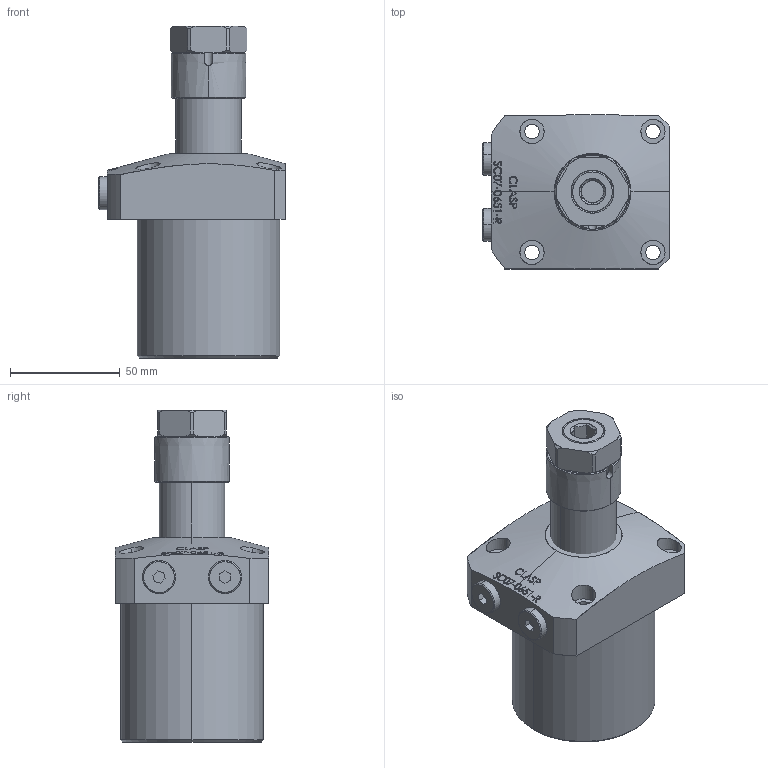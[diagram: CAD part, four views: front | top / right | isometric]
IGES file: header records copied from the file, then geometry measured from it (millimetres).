
Start section: SolidWorks IGES file using analytic representation for surfaces
Global section: file name: D:\karuppas\Clasp\3D model\SWING CYLINDER\Top Mounting swing cylinder\SC07-0651-R\SC07-0651-R.IGS; native system: SolidWorks 2017; preprocessor: SolidWorks 2017; author: pc; date: 220705.232258; units: millimetre
Bounding box: 85 x 70 x 151 mm (x, y, z)
Surface area: 52881 mm2 (no closed solid volume)
Topology: 0 solids, 0 shells, 366 faces, 6326 edges, 6325 vertices
Faces by surface type: bspline 252, revolution 114
